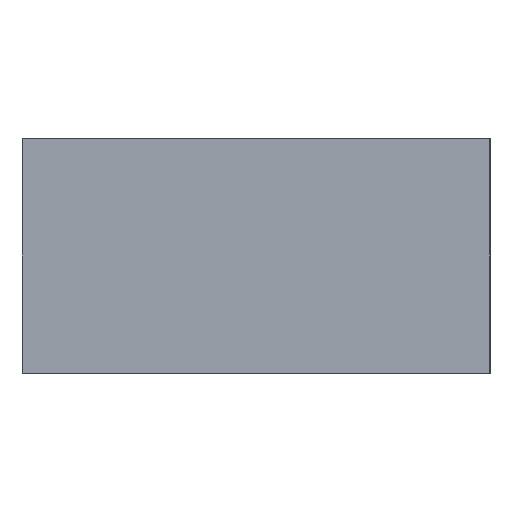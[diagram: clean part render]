
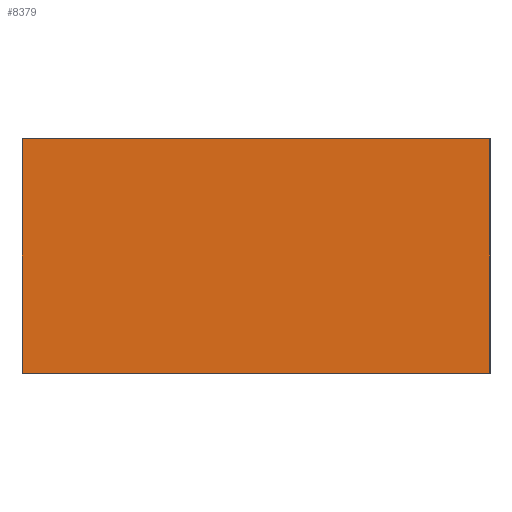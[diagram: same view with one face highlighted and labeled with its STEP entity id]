
A CAD part, left-side view. The second image highlights one B-rep face of the part: STEP entity #8379.
In plain terms, the highlighted planar face has unit normal (-1, 0, 0).
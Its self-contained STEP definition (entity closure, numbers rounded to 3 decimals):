
#746=ORIENTED_EDGE('',*,*,#1915,.T.);
#747=ORIENTED_EDGE('',*,*,#1916,.F.);
#748=ORIENTED_EDGE('',*,*,#1917,.T.);
#749=ORIENTED_EDGE('',*,*,#1864,.T.);
#1864=EDGE_CURVE('',#2450,#2449,#2959,.T.);
#1915=EDGE_CURVE('',#2449,#2499,#2991,.T.);
#1916=EDGE_CURVE('',#2500,#2499,#2992,.T.);
#1917=EDGE_CURVE('',#2500,#2450,#2993,.T.);
#2449=VERTEX_POINT('',#11593);
#2450=VERTEX_POINT('',#11595);
#2499=VERTEX_POINT('',#11834);
#2500=VERTEX_POINT('',#11836);
#2959=LINE('',#11594,#3140);
#2991=LINE('',#11833,#3172);
#2992=LINE('',#11835,#3173);
#2993=LINE('',#11837,#3174);
#3140=VECTOR('',#9689,1000.);
#3172=VECTOR('',#9747,1000.);
#3173=VECTOR('',#9748,1000.);
#3174=VECTOR('',#9749,1000.);
#3314=EDGE_LOOP('',(#746,#747,#748,#749));
#4147=FACE_BOUND('',#3314,.T.);
#4965=PLANE('',#8847);
#8379=ADVANCED_FACE('',(#4147),#4965,.F.);
#8847=AXIS2_PLACEMENT_3D('',#11832,#9745,#9746);
#9689=DIRECTION('',(0.,0.,-1.));
#9745=DIRECTION('',(1.,0.,0.));
#9746=DIRECTION('',(0.,0.,-1.));
#9747=DIRECTION('',(0.,-1.,0.));
#9748=DIRECTION('',(0.,0.,-1.));
#9749=DIRECTION('',(0.,1.,0.));
#11593=CARTESIAN_POINT('',(-65.,30.,0.));
#11594=CARTESIAN_POINT('',(-65.,30.,15.));
#11595=CARTESIAN_POINT('',(-65.,30.,30.1));
#11832=CARTESIAN_POINT('',(-65.,30.,15.));
#11833=CARTESIAN_POINT('',(-65.,30.,0.));
#11834=CARTESIAN_POINT('',(-65.,-30.,0.));
#11835=CARTESIAN_POINT('',(-65.,-30.,15.));
#11836=CARTESIAN_POINT('',(-65.,-30.,30.1));
#11837=CARTESIAN_POINT('',(-65.,-30.,30.1));
